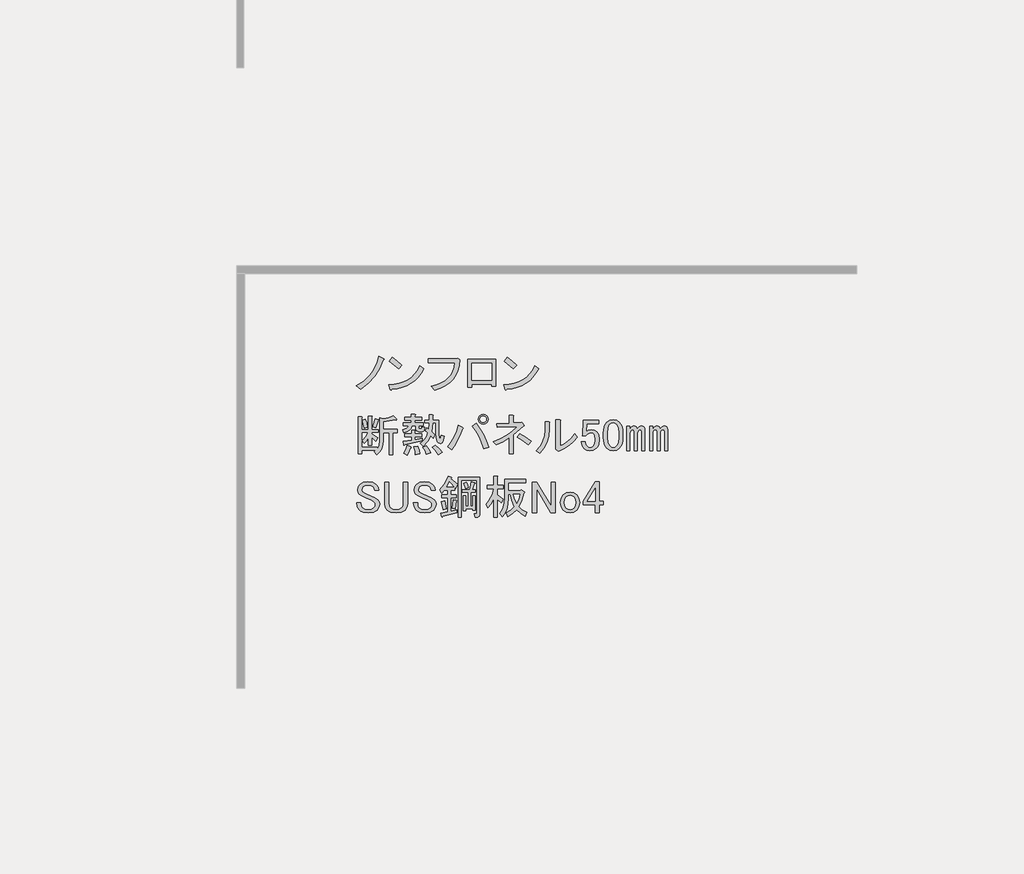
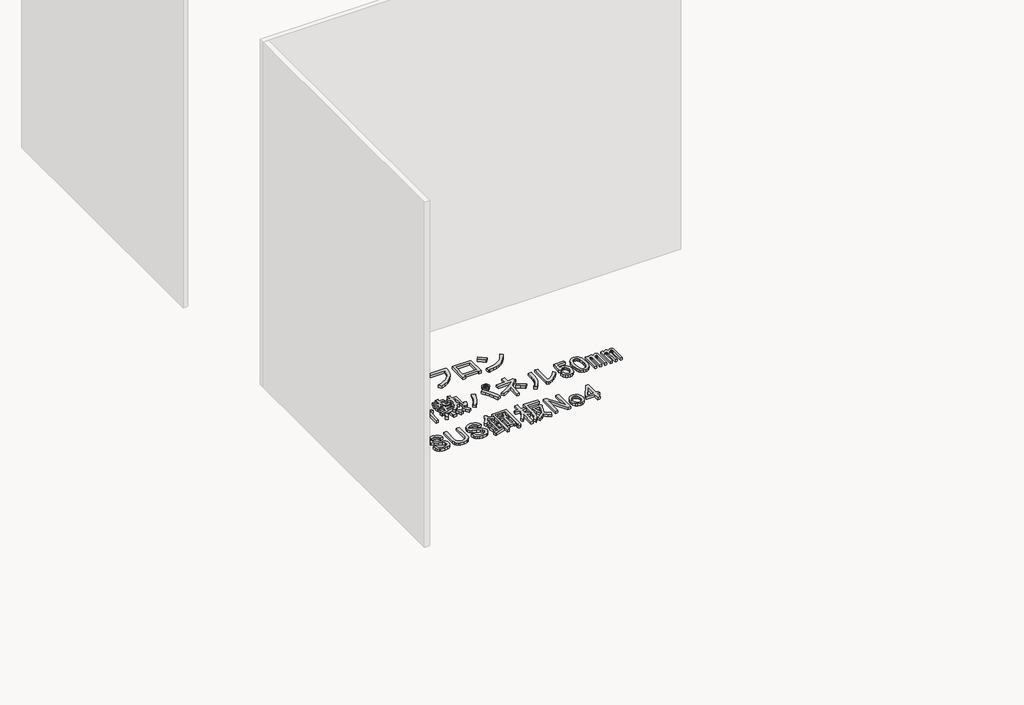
# One storey, part 91 of 117: 1 proxy.
"""IFC4 building model written with IfcOpenShell, lengths in millimetres."""

from ifc_helpers import new_model, si_unit, frame, origin, place, context, project, spatial, polyline, outline, extrude, element, save

model = new_model("IFC4")

# Units and contexts
model_context = context("Model", 3, world=origin())
ifc_project = project(units=[si_unit("LENGTHUNIT", "METRE", prefix="MILLI")], contexts=[model_context])

# Site, building, storey
site = spatial("IfcSite", under=ifc_project)
building = spatial("IfcBuilding", under=site)
storey = spatial("IfcBuildingStorey", under=building, Name="レベル 1", Elevation=500.0)

# Proxy
placement = place(None, origin())
element("IfcBuildingElementProxy", 1, Name="200㎜\u3000MS Pゴシック", ObjectType="200㎜\u3000MS Pゴシック", at=placement, inside=storey, context=model_context, shape_type="SweptSolid", body=[
    extrude(outline(polyline([(16943.6706985, 7392.9503118), (16918.0952502, 7333.1784775), (16889.646156, 7287.2001434), (16847.9782907, 7241.7965385), (16798.8389462, 7204.439142), (16771.2519457, 7226.2788507), (16818.9544673, 7256.7394971), (16858.6107805, 7295.2463519), (16875.9963381, 7319.1694538), (16891.3703435, 7347.2593423), (16904.7327969, 7379.5160173), (16916.0836981, 7415.9394788), (16947.1190736, 7402.1459786), (16950.2800841, 7397.5481452), (16943.6706985, 7392.9503118)])), frame((0.0, 0.0, 500.0), z_axis=(0.0, 0.0, 1.0), x_axis=(1.0, 0.0, 0.0)), (0.0, 0.0, 1.0), 25.0),
    extrude(outline(polyline([(17043.3977052, 7337.7763109), (16984.7753292, 7384.9041033), (17004.3161212, 7409.0427287), (17031.6157571, 7389.2145721), (17065.2374138, 7359.6160196), (17043.3977052, 7337.7763109)])), frame((0.0, 0.0, 500.0), z_axis=(0.0, 0.0, 1.0), x_axis=(1.0, 0.0, 0.0)), (0.0, 0.0, 1.0), 25.0),
    extrude(outline(polyline([(17205.4713328, 7337.7763109), (17188.947869, 7308.034076), (17169.8381239, 7282.0275808), (17148.1420975, 7259.7568252), (17123.8597898, 7241.2218093), (17096.9912008, 7226.422533), (17067.5363306, 7215.3589964), (17035.495179, 7208.0311994), (17000.8677461, 7204.439142), (16995.1204544, 7196.3929336), (16989.3731626, 7202.1402253), (16980.1774958, 7232.0261425), (17016.0082679, 7234.7022252), (17048.7857912, 7241.0062859), (17078.5100658, 7250.9383244), (17105.1810916, 7264.4983409), (17128.7988687, 7281.6863354), (17149.363397, 7302.5023077), (17166.8746766, 7326.946258), (17181.3327074, 7355.0181862), (17205.4713328, 7337.7763109)])), frame((0.0, 0.0, 500.0), z_axis=(0.0, 0.0, 1.0), x_axis=(1.0, 0.0, 0.0)), (0.0, 0.0, 1.0), 25.0),
    extrude(outline(polyline([(17256.2314136, 7222.8304757), (17290.014713, 7232.5110702), (17319.5234641, 7244.8857078), (17344.757667, 7259.9543884), (17365.7173217, 7277.717112), (17382.402428, 7298.1738786), (17394.8129862, 7321.3246882), (17402.9489961, 7347.1695409), (17406.8104577, 7375.7084365), (17234.3917049, 7375.7084365), (17234.3917049, 7400.9965202), (17409.1093744, 7400.9965202), (17425.2017914, 7404.4448953), (17437.8458332, 7392.9503118), (17434.325617, 7356.4550091), (17426.0638851, 7323.4080815), (17413.0606375, 7293.8095289), (17395.3158742, 7267.6593514), (17372.8295952, 7244.957549), (17345.6018005, 7225.7041216), (17313.6324901, 7209.8990692), (17276.921664, 7197.5423919), (17256.2314136, 7222.8304757)])), frame((0.0, 0.0, 500.0), z_axis=(0.0, 0.0, 1.0), x_axis=(1.0, 0.0, 0.0)), (0.0, 0.0, 1.0), 25.0),
    extrude(outline(polyline([(17670.955987, 7223.979934), (17644.5184449, 7223.979934), (17644.5184449, 7236.6239759), (17516.9285679, 7236.6239759), (17516.9285679, 7218.2326423), (17490.4910258, 7218.2326423), (17490.4910258, 7397.5481452), (17670.955987, 7397.5481452), (17670.955987, 7223.979934)]), holes=[polyline([(17516.9285679, 7372.2600614), (17516.9285679, 7261.9120596), (17644.5184449, 7261.9120596), (17644.5184449, 7372.2600614), (17516.9285679, 7372.2600614)])]), frame((0.0, 0.0, 500.0), z_axis=(0.0, 0.0, 1.0), x_axis=(1.0, 0.0, 0.0)), (0.0, 0.0, 1.0), 25.0),
    extrude(outline(polyline([(17947.0099049, 7337.7763109), (17930.4864411, 7308.034076), (17911.376696, 7282.0275808), (17889.6806696, 7259.7568252), (17865.3983619, 7241.2218093), (17838.5297729, 7226.422533), (17809.0749026, 7215.3589964), (17777.0337511, 7208.0311994), (17742.4063182, 7204.439142), (17736.6590264, 7196.3929336), (17730.9117347, 7202.1402253), (17721.7160679, 7232.0261425), (17757.5468399, 7234.7022252), (17790.3243633, 7241.0062859), (17820.0486378, 7250.9383244), (17846.7196637, 7264.4983409), (17870.3374407, 7281.6863354), (17890.9019691, 7302.5023077), (17908.4132486, 7326.946258), (17922.8712795, 7355.0181862), (17947.0099049, 7337.7763109)])), frame((0.0, 0.0, 500.0), z_axis=(0.0, 0.0, 1.0), x_axis=(1.0, 0.0, 0.0)), (0.0, 0.0, 1.0), 25.0),
    extrude(outline(polyline([(17784.9362772, 7337.7763109), (17726.3139013, 7384.9041033), (17745.8546933, 7409.0427287), (17773.1543291, 7389.2145721), (17806.7759859, 7359.6160196), (17784.9362772, 7337.7763109)])), frame((0.0, 0.0, 500.0), z_axis=(0.0, 0.0, 1.0), x_axis=(1.0, 0.0, 0.0)), (0.0, 0.0, 1.0), 25.0),
    extrude(outline(polyline([(16877.0021141, 6960.7654779), (16894.2439894, 7013.6405621), (16914.9342397, 7007.8932704), (16916.6584273, 7004.7322599), (16912.635323, 7002.1459786), (16895.3934478, 6953.8687278), (16877.0021141, 6960.7654779)])), frame((0.0, 0.0, 500.0), z_axis=(0.0, 0.0, 1.0), x_axis=(1.0, 0.0, 0.0)), (0.0, 0.0, 1.0), 25.0),
    extrude(outline(polyline([(17031.0295333, 7009.0427287), (17029.3053458, 7004.4448953), (17021.8338665, 7006.743812), (16944.8201569, 6994.0997701), (16944.8201569, 6944.673061), (17036.7768251, 6944.673061), (17036.7768251, 6922.8333523), (17005.7414495, 6922.8333523), (17005.7414495, 6782.5994334), (16982.7522825, 6782.5994334), (16982.7522825, 6922.8333523), (16944.8201569, 6922.8333523), (16944.8201569, 6873.4066432), (16942.2338756, 6845.6041193), (16934.4750317, 6820.8189236), (16921.5436253, 6799.051056), (16903.4396562, 6780.3005167), (16886.1977809, 6799.8413086), (16896.5429061, 6809.0369755), (16806.8851546, 6809.0369755), (16806.8851546, 6787.1972668), (16783.8959876, 6787.1972668), (16783.8959876, 7026.284604), (16805.7356963, 7026.284604), (16810.6208943, 7023.9856873), (16806.8851546, 7019.3878539), (16806.8851546, 6943.5236026), (16849.4151137, 6943.5236026), (16849.4151137, 7030.8824374), (16867.8064473, 7030.8824374), (16872.6916453, 7028.5835207), (16868.9559057, 7023.9856873), (16868.9559057, 6943.5236026), (16912.635323, 6943.5236026), (16912.635323, 6925.132269), (16868.9559057, 6925.132269), (16868.9559057, 6915.9366022), (16909.186948, 6889.4990601), (16895.3934478, 6867.6593514), (16868.9559057, 6894.0968935), (16868.9559057, 6841.2218093), (16849.4151137, 6841.2218093), (16849.4151137, 6889.4990601), (16836.1963426, 6869.6709035), (16821.8281132, 6853.8658512), (16809.1840713, 6872.2571848), (16831.02378, 6896.3958102), (16848.2656553, 6925.132269), (16806.8851546, 6925.132269), (16806.8851546, 6830.8766841), (16904.5891146, 6830.8766841), (16904.5891146, 6817.0831839), (16917.520521, 6841.2218093), (16921.8309898, 6874.5561015), (16921.8309898, 7019.3878539), (16943.6706985, 7013.6405621), (16979.8786366, 7021.1120414), (17010.339283, 7034.3308125), (17031.0295333, 7009.0427287)])), frame((0.0, 0.0, 500.0), z_axis=(0.0, 0.0, 1.0), x_axis=(1.0, 0.0, 0.0)), (0.0, 0.0, 1.0), 25.0),
    extrude(outline(polyline([(16822.9775716, 6952.7192695), (16810.3335297, 7003.2954369), (16829.8743217, 7010.1921871), (16837.6331656, 6986.0535617), (16842.5183636, 6959.6160196), (16822.9775716, 6952.7192695)])), frame((0.0, 0.0, 500.0), z_axis=(0.0, 0.0, 1.0), x_axis=(1.0, 0.0, 0.0)), (0.0, 0.0, 1.0), 25.0),
    extrude(outline(polyline([(17121.8367431, 6832.0261425), (17125.2851182, 6827.1409445), (17119.5378264, 6823.979934), (17109.7674304, 6798.4044857), (17098.8475761, 6779.1510583), (17075.858409, 6790.6456418), (17088.5024509, 6814.209538), (17098.8475761, 6841.2218093), (17121.8367431, 6832.0261425)])), frame((0.0, 0.0, 500.0), z_axis=(0.0, 0.0, 1.0), x_axis=(1.0, 0.0, 0.0)), (0.0, 0.0, 1.0), 25.0),
    extrude(outline(polyline([(17166.6656188, 6836.6239759), (17176.7233794, 6809.32434), (17181.6085774, 6787.1972668), (17152.8721186, 6781.449975), (17150.2858373, 6803.0023191), (17142.5269934, 6833.1756008), (17166.6656188, 6836.6239759)])), frame((0.0, 0.0, 500.0), z_axis=(0.0, 0.0, 1.0), x_axis=(1.0, 0.0, 0.0)), (0.0, 0.0, 1.0), 25.0),
    extrude(outline(polyline([(17281.611454, 6842.3712677), (17306.3248086, 6821.1062881), (17325.2908714, 6796.3929336), (17298.8533293, 6781.449975), (17279.5999019, 6811.0485276), (17260.9212037, 6830.8766841), (17281.611454, 6842.3712677)])), frame((0.0, 0.0, 500.0), z_axis=(0.0, 0.0, 1.0), x_axis=(1.0, 0.0, 0.0)), (0.0, 0.0, 1.0), 25.0),
    extrude(outline(polyline([(17222.9890781, 6783.7488917), (17214.655505, 6808.4622463), (17201.1493694, 6829.7272258), (17221.8396197, 6837.7734343), (17238.7941304, 6816.2210902), (17250.5760785, 6792.9445585), (17222.9890781, 6783.7488917)])), frame((0.0, 0.0, 500.0), z_axis=(0.0, 0.0, 1.0), x_axis=(1.0, 0.0, 0.0)), (0.0, 0.0, 1.0), 25.0),
    extrude(outline(polyline([(17083.9046175, 6846.9691011), (17081.8930654, 6842.0839031), (17078.1573257, 6843.520726), (17072.410034, 6867.6593514), (17127.5840349, 6875.7055599), (17127.5840349, 6898.6947269), (17083.9046175, 6898.6947269), (17083.9046175, 6917.0860605), (17127.5840349, 6917.0860605), (17127.5840349, 6940.0752276), (17145.9753685, 6940.0752276), (17150.8605665, 6937.7763109), (17147.1248268, 6933.1784775), (17147.1248268, 6917.0860605), (17191.9537026, 6917.0860605), (17191.9537026, 6898.6947269), (17147.1248268, 6898.6947269), (17147.1248268, 6879.1539349), (17197.7009943, 6888.3496017), (17197.7009943, 6872.2571848), (17083.9046175, 6846.9691011)])), frame((0.0, 0.0, 500.0), z_axis=(0.0, 0.0, 1.0), x_axis=(1.0, 0.0, 0.0)), (0.0, 0.0, 1.0), 25.0),
    extrude(outline(polyline([(17154.021577, 6968.8116864), (17128.7334932, 6968.8116864), (17124.1356598, 6951.3542877), (17113.7905346, 6938.0636755), (17097.6981177, 6928.9398498), (17075.858409, 6923.9828107), (17071.2605756, 6943.5236026), (17096.5486594, 6952.1445403), (17104.0201386, 6959.4723373), (17108.0432429, 6968.8116864), (17072.410034, 6968.8116864), (17072.410034, 6987.20302), (17126.4345765, 6987.20302), (17126.4345765, 7004.4448953), (17082.7551591, 7004.4448953), (17082.7551591, 7022.8362289), (17126.4345765, 7022.8362289), (17126.4345765, 7041.2275626), (17148.2742852, 7041.2275626), (17153.1594832, 7038.9286459), (17149.4237436, 7034.3308125), (17149.4237436, 7022.8362289), (17191.9537026, 7022.8362289), (17191.9537026, 7004.4448953), (17149.4237436, 7004.4448953), (17149.4237436, 6987.20302), (17202.2988277, 6987.20302), (17202.2988277, 6968.8116864), (17173.5623689, 6968.8116864), (17173.5623689, 6956.1676445), (17174.9991919, 6950.9950819), (17179.3096607, 6949.2708944), (17189.6547859, 6949.2708944), (17193.3905255, 6952.4319049), (17193.1031609, 6961.9149363), (17212.6439529, 6959.6160196), (17209.770307, 6938.0636755), (17204.4540622, 6932.6755894), (17196.551536, 6930.8795608), (17172.4129106, 6930.8795608), (17158.6194104, 6935.7647588), (17154.021577, 6950.4203528), (17154.021577, 6968.8116864)])), frame((0.0, 0.0, 500.0), z_axis=(0.0, 0.0, 1.0), x_axis=(1.0, 0.0, 0.0)), (0.0, 0.0, 1.0), 25.0),
    extrude(outline(polyline([(17285.0598291, 6986.0535617), (17263.2201204, 6986.0535617), (17258.622287, 6928.5806441), (17278.163079, 6910.1893104), (17267.8179538, 6888.3496017), (17251.7255369, 6904.4420187), (17232.4721095, 6866.7972576), (17202.2988277, 6834.3250592), (17185.0569525, 6855.0153095), (17200.1435933, 6866.9409399), (17213.2186821, 6882.0275808), (17224.2822187, 6900.2752321), (17233.3342033, 6921.683894), (17216.092328, 6936.6268525), (17224.1385364, 6953.8687278), (17237.9320367, 6943.5236026), (17240.2309534, 6986.0535617), (17212.6439529, 6986.0535617), (17212.6439529, 7004.4448953), (17240.2309534, 7004.4448953), (17240.2309534, 7038.9286459), (17262.0706621, 7038.9286459), (17266.95586, 7036.6297292), (17263.2201204, 7032.0318957), (17263.2201204, 7004.4448953), (17304.6006211, 7004.4448953), (17304.6006211, 6907.8903937), (17308.0489961, 6883.7517683), (17311.2818477, 6881.7402162), (17314.0836525, 6884.9012267), (17318.3941213, 6906.7409354), (17337.9349133, 6899.8441853), (17333.408921, 6873.0474374), (17325.578236, 6857.0268616), (17314.4428582, 6851.7824579), (17300.0027877, 6857.3142262), (17293.4652433, 6864.6420232), (17288.7955687, 6876.280289), (17285.0598291, 6912.4882271), (17285.0598291, 6986.0535617)])), frame((0.0, 0.0, 500.0), z_axis=(0.0, 0.0, 1.0), x_axis=(1.0, 0.0, 0.0)), (0.0, 0.0, 1.0), 25.0),
    extrude(outline(polyline([(17543.6879583, 6983.754645), (17570.3410238, 6947.0438188), (17592.8273029, 6909.3272167), (17611.1467953, 6870.6048384), (17625.2995013, 6830.8766841), (17594.2641258, 6820.531559), (17578.8182792, 6863.6362472), (17561.2171982, 6902.143102), (17541.4608827, 6936.0521234), (17519.5493329, 6965.3633113), (17543.6879583, 6983.754645)])), frame((0.0, 0.0, 500.0), z_axis=(0.0, 0.0, 1.0), x_axis=(1.0, 0.0, 0.0)), (0.0, 0.0, 1.0), 25.0),
    extrude(outline(polyline([(17456.3291235, 6957.3171029), (17460.3522278, 6951.8571757), (17454.0302068, 6946.9719777), (17442.1045764, 6911.5542922), (17427.0179356, 6877.717112), (17408.7702842, 6845.460437), (17387.3616224, 6814.7842672), (17360.9240803, 6832.0261425), (17384.1287708, 6863.4925649), (17403.1666748, 6896.9705394), (17418.0377922, 6932.460066), (17428.7421231, 6969.9611447), (17456.3291235, 6957.3171029)])), frame((0.0, 0.0, 500.0), z_axis=(0.0, 0.0, 1.0), x_axis=(1.0, 0.0, 0.0)), (0.0, 0.0, 1.0), 25.0),
    extrude(outline(polyline([(17589.6662924, 6978.0073532), (17577.0222505, 6980.3062699), (17566.6771253, 6987.20302), (17559.7803752, 6997.5481452), (17557.4814585, 7010.1921871), (17559.7803752, 7022.8362289), (17566.6771253, 7033.1813541), (17577.0222505, 7040.0781042), (17589.6662924, 7042.3770209), (17602.3103343, 7040.0781042), (17612.6554594, 7033.1813541), (17619.5522095, 7022.8362289), (17621.8511262, 7010.1921871), (17619.5522095, 6997.5481452), (17612.6554594, 6987.20302), (17602.3103343, 6980.3062699), (17589.6662924, 6978.0073532)]), holes=[polyline([(17589.6662924, 6989.5019367), (17597.9998654, 6990.9387597), (17604.609251, 6995.2492285), (17608.9197198, 7001.858614), (17610.3565427, 7010.1921871), (17608.9197198, 7018.5257601), (17604.609251, 7025.1351456), (17597.9998654, 7029.4456145), (17589.6662924, 7030.8824374), (17581.3327193, 7029.4456145), (17574.7233338, 7025.1351456), (17570.412865, 7018.5257601), (17568.976042, 7010.1921871), (17570.412865, 7001.858614), (17574.7233338, 6995.2492285), (17581.3327193, 6990.9387597), (17589.6662924, 6989.5019367)])]), frame((0.0, 0.0, 500.0), z_axis=(0.0, 0.0, 1.0), x_axis=(1.0, 0.0, 0.0)), (0.0, 0.0, 1.0), 25.0),
    extrude(outline(polyline([(17879.3297971, 6844.6701844), (17842.2597652, 6873.9813723), (17809.2128376, 6895.2463519), (17826.4547129, 6917.0860605), (17865.2489323, 6893.8095289), (17898.8705891, 6867.6593514), (17879.3297971, 6844.6701844)])), frame((0.0, 0.0, 500.0), z_axis=(0.0, 0.0, 1.0), x_axis=(1.0, 0.0, 0.0)), (0.0, 0.0, 1.0), 25.0),
    extrude(outline(polyline([(17833.351463, 6988.3524784), (17840.2482131, 6990.6513951), (17852.892255, 6973.4095198), (17854.0417134, 6967.3748634), (17848.2944216, 6965.3633113), (17785.0742122, 6909.0398521), (17785.0742122, 6788.3467251), (17758.6366701, 6788.3467251), (17758.6366701, 6890.6485184), (17718.4056278, 6866.5098931), (17673.5767521, 6844.6701844), (17654.0359601, 6865.3604347), (17699.5832473, 6884.8293855), (17740.8200657, 6907.6030291), (17777.7464152, 6933.6813655), (17810.362296, 6963.0643946), (17680.4735022, 6957.3171029), (17677.0251271, 6982.6051866), (17758.6366701, 6984.9041033), (17758.6366701, 7036.6297292), (17781.6258372, 7036.6297292), (17787.6604935, 7033.1813541), (17785.0742122, 7027.4340623), (17785.0742122, 6986.0535617), (17833.351463, 6988.3524784)])), frame((0.0, 0.0, 500.0), z_axis=(0.0, 0.0, 1.0), x_axis=(1.0, 0.0, 0.0)), (0.0, 0.0, 1.0), 25.0),
    extrude(outline(polyline([(17932.296838, 6806.7380587), (17957.4412394, 6835.9774056), (17975.4015262, 6868.5214452), (17986.1776982, 6904.3701775), (17989.7697556, 6943.5236026), (17989.7697556, 6995.2492285), (18013.908381, 6995.2492285), (18019.6556727, 6991.8008534), (18016.2072977, 6986.0535617), (18016.2072977, 6944.673061), (18012.3997169, 6898.9102504), (18000.9769745, 6858.17632), (17981.9390705, 6822.4712699), (17955.286005, 6791.7951002), (17932.296838, 6806.7380587)])), frame((0.0, 0.0, 500.0), z_axis=(0.0, 0.0, 1.0), x_axis=(1.0, 0.0, 0.0)), (0.0, 0.0, 1.0), 25.0),
    extrude(outline(polyline([(18086.3242571, 6837.7734343), (18111.1094529, 6849.9864292), (18134.8888725, 6867.0846222), (18157.6625161, 6889.0680132), (18179.4303837, 6915.9366022), (18195.5228006, 6894.0968935), (18172.246269, 6866.2943696), (18146.0960914, 6842.6586322), (18117.0722681, 6823.1896814), (18085.1747988, 6807.8875171), (18075.979132, 6803.2896837), (18057.5877983, 6817.0831839), (18059.886715, 6822.8304757), (18059.886715, 7007.8932704), (18084.0253404, 7007.8932704), (18089.7726322, 7004.4448953), (18086.3242571, 6998.6976035), (18086.3242571, 6837.7734343)])), frame((0.0, 0.0, 500.0), z_axis=(0.0, 0.0, 1.0), x_axis=(1.0, 0.0, 0.0)), (0.0, 0.0, 1.0), 25.0),
    extrude(outline(polyline([(18236.9033013, 7004.4448953), (18335.7567195, 7004.4448953), (18335.7567195, 6982.6051866), (18258.7430099, 6982.6051866), (18258.7430099, 6979.1568116), (18255.2946349, 6936.6268525), (18254.1451765, 6929.7301024), (18269.6628643, 6940.0752276), (18286.3300104, 6943.5236026), (18307.3076253, 6939.787863), (18324.262136, 6928.5806441), (18336.3314487, 6908.7524875), (18340.3545529, 6881.4528516), (18335.1819904, 6846.9691011), (18328.7162871, 6833.1756008), (18319.6643026, 6821.6810173), (18301.5603336, 6809.6117046), (18279.4332603, 6805.5886004), (18258.4556454, 6809.32434), (18241.5011347, 6820.531559), (18229.431822, 6839.2102572), (18223.109801, 6865.3604347), (18249.5473431, 6865.3604347), (18253.5704474, 6846.6817365), (18261.0419266, 6834.3250592), (18268.8007705, 6829.1524966), (18278.2838019, 6827.4283091), (18290.6404792, 6829.4398612), (18300.1235106, 6835.4745175), (18309.606542, 6852.4290282), (18312.7675525, 6878.0044766), (18310.1812712, 6902.143102), (18302.4224273, 6917.0860605), (18294.950948, 6922.2586231), (18286.3300104, 6923.9828107), (18273.3986039, 6921.3965294), (18262.191385, 6913.6376855), (18252.9957182, 6903.2925603), (18230.0065511, 6903.2925603), (18231.1560095, 6911.3387688), (18236.9033013, 6999.8470619), (18236.9033013, 7004.4448953)])), frame((0.0, 0.0, 500.0), z_axis=(0.0, 0.0, 1.0), x_axis=(1.0, 0.0, 0.0)), (0.0, 0.0, 1.0), 25.0),
    extrude(outline(polyline([(18365.6426367, 6918.2355189), (18367.0794596, 6941.7994151), (18371.3899284, 6961.9149363), (18378.5740431, 6978.5820824), (18388.6318037, 6991.8008534), (18406.7357728, 7003.8701661), (18428.862846, 7007.8932704), (18450.9899193, 7003.8701661), (18469.0938884, 6991.8008534), (18479.1516489, 6978.5820824), (18486.3357636, 6961.9149363), (18490.6462325, 6941.7994151), (18492.0830554, 6918.2355189), (18492.0830554, 6895.2463519), (18490.6462325, 6872.1853437), (18486.3357636, 6852.4290282), (18479.1516489, 6835.9774056), (18469.0938884, 6822.8304757), (18450.9899193, 6810.761163), (18428.862846, 6806.7380587), (18406.7357728, 6810.761163), (18388.6318037, 6822.8304757), (18378.5740431, 6835.9774056), (18371.3899284, 6852.4290282), (18367.0794596, 6872.1853437), (18365.6426367, 6895.2463519), (18365.6426367, 6918.2355189)]), holes=[polyline([(18428.862846, 6986.0535617), (18417.9429917, 6983.754645), (18408.1725957, 6976.8578948), (18401.6350513, 6967.7340692), (18396.9653768, 6955.3055507), (18393.2296371, 6920.5344356), (18393.2296371, 6894.0968935), (18397.2527414, 6859.9005075), (18402.2816217, 6847.3283068), (18409.3220541, 6837.7734343), (18418.8050855, 6830.8766841), (18428.862846, 6828.5777674), (18439.7827004, 6830.8766841), (18449.5530964, 6837.7734343), (18456.0906408, 6846.8972599), (18460.7603153, 6859.3257784), (18464.496055, 6894.0968935), (18464.496055, 6920.5344356), (18460.7603153, 6955.3055507), (18456.0906408, 6967.7340692), (18449.5530964, 6976.8578948), (18439.7827004, 6983.754645), (18428.862846, 6986.0535617)])]), frame((0.0, 0.0, 500.0), z_axis=(0.0, 0.0, 1.0), x_axis=(1.0, 0.0, 0.0)), (0.0, 0.0, 1.0), 25.0),
    extrude(outline(polyline([(18536.9119311, 6806.7380587), (18517.3711392, 6806.7380587), (18517.3711392, 6964.213853), (18536.9119311, 6964.213853), (18536.9119311, 6946.9719777), (18548.9812438, 6962.4896654), (18562.2000149, 6967.662228), (18571.3956817, 6966.2254051), (18578.2924318, 6961.9149363), (18585.1891819, 6948.121436), (18598.1205884, 6962.77703), (18611.626724, 6967.662228), (18619.9602971, 6966.2254051), (18626.5696826, 6961.9149363), (18631.7422452, 6953.2939986), (18633.4664327, 6941.2246859), (18633.4664327, 6806.7380587), (18613.9256407, 6806.7380587), (18613.9256407, 6930.8795608), (18611.3393594, 6940.3625922), (18603.5805156, 6943.5236026), (18593.2353904, 6938.9257692), (18587.200734, 6930.3048316), (18585.1891819, 6920.5344356), (18585.1891819, 6806.7380587), (18565.6483899, 6806.7380587), (18565.6483899, 6930.8795608), (18563.0621086, 6940.3625922), (18555.3032648, 6943.5236026), (18544.9581396, 6938.9257692), (18538.9234833, 6930.3048316), (18536.9119311, 6920.5344356), (18536.9119311, 6806.7380587)])), frame((0.0, 0.0, 500.0), z_axis=(0.0, 0.0, 1.0), x_axis=(1.0, 0.0, 0.0)), (0.0, 0.0, 1.0), 25.0),
    extrude(outline(polyline([(18758.7573931, 6967.662228), (18767.0909661, 6966.2254051), (18773.7003517, 6961.9149363), (18778.8729142, 6953.2939986), (18780.5971018, 6941.2246859), (18780.5971018, 6806.7380587), (18761.0563098, 6806.7380587), (18761.0563098, 6930.8795608), (18758.4700285, 6940.3625922), (18750.7111846, 6943.5236026), (18740.3660594, 6938.9257692), (18734.3314031, 6930.3048316), (18732.319851, 6920.5344356), (18732.319851, 6806.7380587), (18712.779059, 6806.7380587), (18712.779059, 6930.8795608), (18710.1927777, 6940.3625922), (18702.4339338, 6943.5236026), (18692.0888087, 6938.9257692), (18686.0541523, 6930.3048316), (18684.0426002, 6920.5344356), (18684.0426002, 6806.7380587), (18664.5018082, 6806.7380587), (18664.5018082, 6964.213853), (18684.0426002, 6964.213853), (18684.0426002, 6946.9719777), (18696.1119129, 6962.4896654), (18709.3306839, 6967.662228), (18718.5263508, 6966.2254051), (18725.4231009, 6961.9149363), (18732.319851, 6948.121436), (18745.2512574, 6962.77703), (18758.7573931, 6967.662228)])), frame((0.0, 0.0, 500.0), z_axis=(0.0, 0.0, 1.0), x_axis=(1.0, 0.0, 0.0)), (0.0, 0.0, 1.0), 25.0),
    extrude(outline(polyline([(16779.2981542, 6552.7192695), (16783.3212584, 6573.1221552), (16795.3905711, 6590.6513951), (16815.7934569, 6602.7207078), (16844.8172803, 6606.743812), (16876.1400204, 6602.1459786), (16898.8418228, 6588.3524784), (16910.9111355, 6570.8232385), (16914.9342397, 6550.4203528), (16888.4966976, 6550.4203528), (16886.1977809, 6563.0643946), (16879.3010308, 6573.4095198), (16866.0822598, 6581.1683637), (16847.116197, 6583.754645), (16826.7133112, 6581.4557283), (16813.7819048, 6574.5589781), (16807.7472484, 6565.9380405), (16805.7356963, 6556.1676445), (16810.3335297, 6541.2246859), (16831.02378, 6529.7301024), (16890.7956143, 6503.2925603), (16908.0374896, 6491.7979768), (16917.520521, 6478.0044766), (16920.6815315, 6461.9120596), (16916.6584273, 6440.6470801), (16904.5891146, 6422.8304757), (16894.6031951, 6415.2871552), (16881.8873121, 6409.8990692), (16848.2656553, 6405.5886004), (16814.6439985, 6410.761163), (16801.0660217, 6417.2268662), (16789.6432794, 6426.2788507), (16778.4360604, 6444.6701844), (16774.7003208, 6469.9582681), (16801.1378629, 6469.9582681), (16803.4367796, 6452.1416637), (16810.3335297, 6440.072351), (16826.4259466, 6430.5893196), (16849.4151137, 6427.4283091), (16870.3927286, 6430.301955), (16885.0483226, 6438.9228926), (16891.9450727, 6448.1185594), (16894.2439894, 6457.3142262), (16892.5198019, 6466.7972576), (16887.3472393, 6474.5561015), (16868.9559057, 6486.050685), (16839.0699885, 6499.8441853), (16805.7356963, 6514.7871438), (16789.6432794, 6525.132269), (16781.8844355, 6537.2015817), (16779.2981542, 6552.7192695)])), frame((0.0, 0.0, 500.0), z_axis=(0.0, 0.0, 1.0), x_axis=(1.0, 0.0, 0.0)), (0.0, 0.0, 1.0), 25.0),
    extrude(outline(polyline([(16954.7054987, 6604.4448953), (16981.1430408, 6604.4448953), (16981.1430408, 6466.5098931), (16983.7293221, 6451.8542991), (16991.488166, 6440.072351), (17007.0058537, 6430.5893196), (17028.2708332, 6427.4283091), (17049.5358128, 6430.5893196), (17065.0535005, 6440.072351), (17072.8123444, 6451.8542991), (17075.3986257, 6466.5098931), (17075.3986257, 6604.4448953), (17101.8361678, 6604.4448953), (17101.8361678, 6465.3604347), (17097.8130635, 6442.3712677), (17085.7437508, 6423.979934), (17075.2549434, 6415.9337256), (17062.1798546, 6410.1864338), (17028.2708332, 6405.5886004), (16994.3618119, 6410.1864338), (16981.2867231, 6415.9337256), (16970.7979156, 6423.979934), (16958.7286029, 6442.3712677), (16954.7054987, 6465.3604347), (16954.7054987, 6604.4448953)])), frame((0.0, 0.0, 500.0), z_axis=(0.0, 0.0, 1.0), x_axis=(1.0, 0.0, 0.0)), (0.0, 0.0, 1.0), 25.0),
    extrude(outline(polyline([(17144.1822135, 6552.7192695), (17148.2053177, 6573.1221552), (17160.2746304, 6590.6513951), (17180.6775161, 6602.7207078), (17209.7013395, 6606.743812), (17241.0240796, 6602.1459786), (17263.7258821, 6588.3524784), (17275.7951948, 6570.8232385), (17279.818299, 6550.4203528), (17253.3807569, 6550.4203528), (17251.0818402, 6563.0643946), (17244.1850901, 6573.4095198), (17230.966319, 6581.1683637), (17212.0002562, 6583.754645), (17191.5973705, 6581.4557283), (17178.665964, 6574.5589781), (17172.6313077, 6565.9380405), (17170.6197556, 6556.1676445), (17175.217589, 6541.2246859), (17195.9078393, 6529.7301024), (17255.6796736, 6503.2925603), (17272.9215489, 6491.7979768), (17282.4045803, 6478.0044766), (17285.5655908, 6461.9120596), (17281.5424865, 6440.6470801), (17269.4731738, 6422.8304757), (17259.4872544, 6415.2871552), (17246.7713714, 6409.8990692), (17213.1497146, 6405.5886004), (17179.5280578, 6410.761163), (17165.950081, 6417.2268662), (17154.5273386, 6426.2788507), (17143.3201197, 6444.6701844), (17139.5843801, 6469.9582681), (17166.0219222, 6469.9582681), (17168.3208389, 6452.1416637), (17175.217589, 6440.072351), (17191.3100059, 6430.5893196), (17214.2991729, 6427.4283091), (17235.2767879, 6430.301955), (17249.9323819, 6438.9228926), (17256.829132, 6448.1185594), (17259.1280487, 6457.3142262), (17257.4038611, 6466.7972576), (17252.2312986, 6474.5561015), (17233.8399649, 6486.050685), (17203.9540478, 6499.8441853), (17170.6197556, 6514.7871438), (17154.5273386, 6525.132269), (17146.7684948, 6537.2015817), (17144.1822135, 6552.7192695)])), frame((0.0, 0.0, 500.0), z_axis=(0.0, 0.0, 1.0), x_axis=(1.0, 0.0, 0.0)), (0.0, 0.0, 1.0), 25.0),
    extrude(outline(polyline([(17413.8451429, 6565.3633113), (17372.4646422, 6609.0427287), (17350.6249335, 6569.9611447), (17405.7989344, 6569.9611447), (17405.7989344, 6551.5698111), (17379.3613923, 6551.5698111), (17379.3613923, 6522.8333523), (17417.2935179, 6522.8333523), (17417.2935179, 6504.4420187), (17379.3613923, 6504.4420187), (17379.3613923, 6417.0831839), (17418.4429763, 6427.4283091), (17420.741893, 6407.8875171), (17328.7852248, 6382.5994334), (17326.4863081, 6376.8521416), (17321.8884747, 6380.3005167), (17314.9917246, 6403.2896837), (17359.8206003, 6412.4853505), (17359.8206003, 6504.4420187), (17321.8884747, 6504.4420187), (17321.8884747, 6522.8333523), (17359.8206003, 6522.8333523), (17359.8206003, 6551.5698111), (17337.9808916, 6551.5698111), (17323.037933, 6533.1784775), (17310.3938912, 6553.8687278), (17338.5556208, 6591.5134888), (17363.2689754, 6642.3770209), (17385.1086841, 6636.6297292), (17388.5570591, 6632.8939895), (17382.8097674, 6630.8824374), (17381.660309, 6627.4340623), (17426.4891847, 6589.5019367), (17413.8451429, 6565.3633113)])), frame((0.0, 0.0, 500.0), z_axis=(0.0, 0.0, 1.0), x_axis=(1.0, 0.0, 0.0)), (0.0, 0.0, 1.0), 25.0),
    extrude(outline(polyline([(17481.6631856, 6602.1459786), (17488.8473003, 6586.9156554), (17494.3072275, 6566.5127697), (17477.0653522, 6560.7654779), (17465.5707687, 6597.5481452), (17481.6631856, 6602.1459786)])), frame((0.0, 0.0, 500.0), z_axis=(0.0, 0.0, 1.0), x_axis=(1.0, 0.0, 0.0)), (0.0, 0.0, 1.0), 25.0),
    extrude(outline(polyline([(17534.5382698, 6600.9965202), (17537.1245511, 6597.5481452), (17531.0898948, 6594.0997701), (17518.4458529, 6556.1676445), (17539.1361032, 6556.1676445), (17539.1361032, 6537.7763109), (17508.1007277, 6537.7763109), (17508.1007277, 6449.2680178), (17523.0436863, 6449.2680178), (17523.0436863, 6517.0860605), (17539.1361032, 6517.0860605), (17539.1361032, 6422.8304757), (17523.0436863, 6422.8304757), (17523.0436863, 6430.8766841), (17477.0653522, 6430.8766841), (17477.0653522, 6418.2326423), (17460.9729353, 6418.2326423), (17460.9729353, 6514.7871438), (17477.0653522, 6514.7871438), (17477.0653522, 6449.2680178), (17492.0083108, 6449.2680178), (17492.0083108, 6537.7763109), (17456.3751019, 6537.7763109), (17456.3751019, 6556.1676445), (17502.353436, 6556.1676445), (17512.6985611, 6605.5943537), (17534.5382698, 6600.9965202)])), frame((0.0, 0.0, 500.0), z_axis=(0.0, 0.0, 1.0), x_axis=(1.0, 0.0, 0.0)), (0.0, 0.0, 1.0), 25.0),
    extrude(outline(polyline([(17428.7881014, 6634.3308125), (17569.0220204, 6634.3308125), (17569.0220204, 6394.0940169), (17565.2862807, 6382.8867979), (17554.0790618, 6379.1510583), (17537.9866449, 6379.1510583), (17533.3888115, 6400.990767), (17544.883395, 6400.990767), (17548.33177, 6402.1402253), (17549.4812284, 6405.5886004), (17549.4812284, 6615.9394788), (17448.3288934, 6615.9394788), (17448.3288934, 6376.8521416), (17428.7881014, 6376.8521416), (17428.7881014, 6634.3308125)])), frame((0.0, 0.0, 500.0), z_axis=(0.0, 0.0, 1.0), x_axis=(1.0, 0.0, 0.0)), (0.0, 0.0, 1.0), 25.0),
    extrude(outline(polyline([(17417.2935179, 6486.050685), (17419.8797992, 6482.8896746), (17416.1440596, 6480.3033933), (17408.0978511, 6433.1756008), (17389.7065175, 6435.4745175), (17395.4538092, 6489.4990601), (17417.2935179, 6486.050685)])), frame((0.0, 0.0, 500.0), z_axis=(0.0, 0.0, 1.0), x_axis=(1.0, 0.0, 0.0)), (0.0, 0.0, 1.0), 25.0),
    extrude(outline(polyline([(17340.2798083, 6484.9012267), (17351.7743918, 6433.1756008), (17331.0841415, 6427.4283091), (17319.589558, 6479.1539349), (17340.2798083, 6484.9012267)])), frame((0.0, 0.0, 500.0), z_axis=(0.0, 0.0, 1.0), x_axis=(1.0, 0.0, 0.0)), (0.0, 0.0, 1.0), 25.0),
    extrude(outline(polyline([(17740.2913148, 6405.5886004), (17769.0277736, 6422.8304757), (17790.8674823, 6444.6701844), (17773.0508779, 6486.6254142), (17763.2804819, 6527.4311857), (17750.63644, 6527.4311857), (17750.63644, 6503.2925603), (17748.193841, 6461.5528539), (17740.866044, 6427.1409445), (17728.653049, 6400.0568321), (17711.554856, 6380.3005167), (17697.7613558, 6403.2896837), (17710.8364446, 6420.6752413), (17720.1757937, 6442.9459968), (17725.7794031, 6470.1019504), (17727.647273, 6502.143102), (17727.647273, 6622.8362289), (17864.4328169, 6622.8362289), (17864.4328169, 6600.9965202), (17750.63644, 6600.9965202), (17750.63644, 6549.2708944), (17829.9490663, 6549.2708944), (17835.6963581, 6555.0181862), (17855.23715, 6541.2246859), (17856.673973, 6537.4889463), (17851.788775, 6533.1784775), (17839.4320977, 6486.6254142), (17820.7533995, 6445.8196427), (17839.7194623, 6427.4283091), (17871.329567, 6409.0369755), (17862.1339002, 6384.8983501), (17834.2595351, 6400.990767), (17805.8104409, 6426.2788507), (17781.3844509, 6401.8528608), (17749.4869817, 6381.449975), (17740.2913148, 6405.5886004)]), holes=[polyline([(17785.1201906, 6527.4311857), (17793.166399, 6494.3842581), (17805.8104409, 6466.5098931), (17818.4544828, 6492.6600706), (17826.5006912, 6527.4311857), (17785.1201906, 6527.4311857)])]), frame((0.0, 0.0, 500.0), z_axis=(0.0, 0.0, 1.0), x_axis=(1.0, 0.0, 0.0)), (0.0, 0.0, 1.0), 25.0),
    extrude(outline(polyline([(17657.5303135, 6376.8521416), (17657.5303135, 6496.3958102), (17639.713709, 6462.1994242), (17620.7476462, 6440.072351), (17609.2530627, 6460.7626013), (17626.494938, 6483.4644037), (17640.2884382, 6507.8903937), (17650.6335634, 6534.0405712), (17657.5303135, 6561.9149363), (17616.1498128, 6561.9149363), (17616.1498128, 6583.754645), (17657.5303135, 6583.754645), (17657.5303135, 6643.5264793), (17679.3700222, 6643.5264793), (17684.2552202, 6641.2275626), (17680.5194805, 6636.6297292), (17680.5194805, 6583.754645), (17718.4516061, 6583.754645), (17718.4516061, 6561.9149363), (17680.5194805, 6561.9149363), (17680.5194805, 6521.683894), (17718.4516061, 6495.2463519), (17708.106481, 6472.2571848), (17680.5194805, 6495.2463519), (17680.5194805, 6376.8521416), (17657.5303135, 6376.8521416)])), frame((0.0, 0.0, 500.0), z_axis=(0.0, 0.0, 1.0), x_axis=(1.0, 0.0, 0.0)), (0.0, 0.0, 1.0), 25.0),
    extrude(outline(polyline([(17908.1122342, 6604.4448953), (17936.848693, 6604.4448953), (18028.8053612, 6449.2680178), (18028.8053612, 6604.4448953), (18055.2429033, 6604.4448953), (18055.2429033, 6407.8875171), (18026.5064445, 6407.8875171), (17934.5497763, 6563.0643946), (17934.5497763, 6407.8875171), (17908.1122342, 6407.8875171), (17908.1122342, 6604.4448953)])), frame((0.0, 0.0, 500.0), z_axis=(0.0, 0.0, 1.0), x_axis=(1.0, 0.0, 0.0)), (0.0, 0.0, 1.0), 25.0),
    extrude(outline(polyline([(18088.3932822, 6472.2571848), (18093.2784802, 6499.5568207), (18107.9340742, 6521.683894), (18127.1875015, 6534.6153004), (18150.4640332, 6538.9257692), (18173.7405648, 6534.6153004), (18192.9939922, 6521.683894), (18207.6495862, 6499.5568207), (18212.5347842, 6472.2571848), (18207.6495862, 6444.957549), (18192.9939922, 6422.8304757), (18173.7405648, 6409.8990692), (18150.4640332, 6405.5886004), (18127.1875015, 6409.8990692), (18107.9340742, 6422.8304757), (18093.2784802, 6444.957549), (18088.3932822, 6472.2571848)]), holes=[polyline([(18150.4640332, 6518.2355189), (18137.8199913, 6515.9366022), (18127.4748661, 6509.0398521), (18117.129741, 6492.9474352), (18113.6813659, 6472.2571848), (18116.8423764, 6451.8542991), (18126.3254078, 6436.6239759), (18137.5326267, 6428.865132), (18150.4640332, 6426.2788507), (18163.3954396, 6428.865132), (18174.6026586, 6436.6239759), (18184.08569, 6451.8542991), (18187.2467004, 6472.2571848), (18183.7983254, 6492.9474352), (18173.4532002, 6509.0398521), (18163.1080751, 6515.9366022), (18150.4640332, 6518.2355189)])]), frame((0.0, 0.0, 500.0), z_axis=(0.0, 0.0, 1.0), x_axis=(1.0, 0.0, 0.0)), (0.0, 0.0, 1.0), 25.0),
    extrude(outline(polyline([(18313.1813575, 6606.743812), (18339.6188996, 6606.743812), (18339.6188996, 6480.3033933), (18363.757525, 6480.3033933), (18363.757525, 6458.4636846), (18339.6188996, 6458.4636846), (18339.6188996, 6407.8875171), (18313.1813575, 6407.8875171), (18313.1813575, 6458.4636846), (18236.1676479, 6458.4636846), (18236.1676479, 6481.4528516), (18313.1813575, 6606.743812)]), holes=[polyline([(18313.1813575, 6564.213853), (18261.4557317, 6480.3033933), (18313.1813575, 6480.3033933), (18313.1813575, 6564.213853)])]), frame((0.0, 0.0, 500.0), z_axis=(0.0, 0.0, 1.0), x_axis=(1.0, 0.0, 0.0)), (0.0, 0.0, 1.0), 25.0),
])

save(model, "model.ifc")
